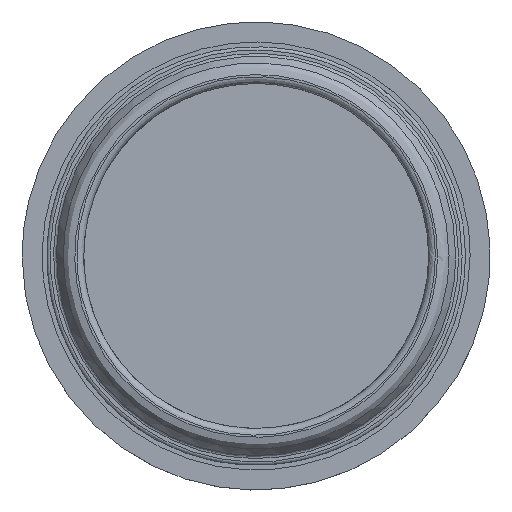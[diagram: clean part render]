
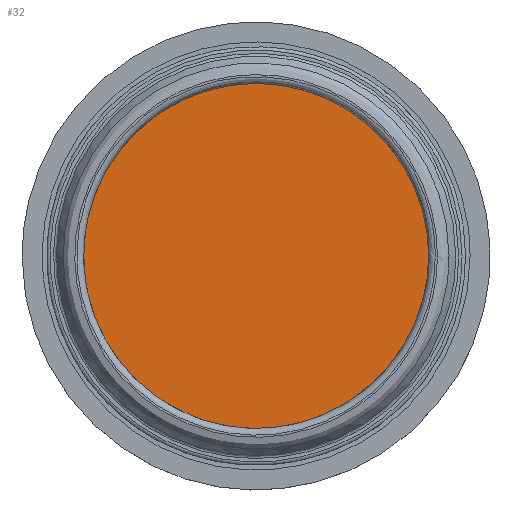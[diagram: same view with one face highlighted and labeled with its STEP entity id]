
A CAD part, top view. The second image highlights one B-rep face of the part: STEP entity #32.
In plain terms, the highlighted planar face has unit normal (0, 0, 1).
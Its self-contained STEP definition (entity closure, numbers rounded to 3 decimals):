
#32=ADVANCED_FACE('',(#58),#323,.T.);
#58=FACE_OUTER_BOUND('',#84,.T.);
#84=EDGE_LOOP('',(#118));
#118=ORIENTED_EDGE('',*,*,#200,.T.);
#200=EDGE_CURVE('',#282,#282,#246,.T.);
#246=(
BOUNDED_CURVE()
B_SPLINE_CURVE(2,(#627,#628,#629,#630,#631,#632,#633,#634,#635),
 .UNSPECIFIED.,.T.,.F.)
B_SPLINE_CURVE_WITH_KNOTS((3,2,2,2,3),(0.,40.527,81.053,
121.58,162.106),.UNSPECIFIED.)
CURVE()
GEOMETRIC_REPRESENTATION_ITEM()
RATIONAL_B_SPLINE_CURVE((1.,0.707,1.,0.707,1.,0.707,
1.,0.707,1.))
REPRESENTATION_ITEM('')
);
#282=VERTEX_POINT('',#602);
#323=PLANE('',#353);
#353=AXIS2_PLACEMENT_3D('',#395,#374,$);
#374=DIRECTION('',(0.,0.,1.));
#395=CARTESIAN_POINT('',(-26.316,-26.316,37.2));
#602=CARTESIAN_POINT('',(25.8,0.,37.2));
#627=CARTESIAN_POINT('',(25.8,0.,37.2));
#628=CARTESIAN_POINT('',(25.8,25.8,37.2));
#629=CARTESIAN_POINT('',(0.,25.8,37.2));
#630=CARTESIAN_POINT('',(-25.8,25.8,37.2));
#631=CARTESIAN_POINT('',(-25.8,0.,37.2));
#632=CARTESIAN_POINT('',(-25.8,-25.8,37.2));
#633=CARTESIAN_POINT('',(0.,-25.8,37.2));
#634=CARTESIAN_POINT('',(25.8,-25.8,37.2));
#635=CARTESIAN_POINT('',(25.8,0.,37.2));
